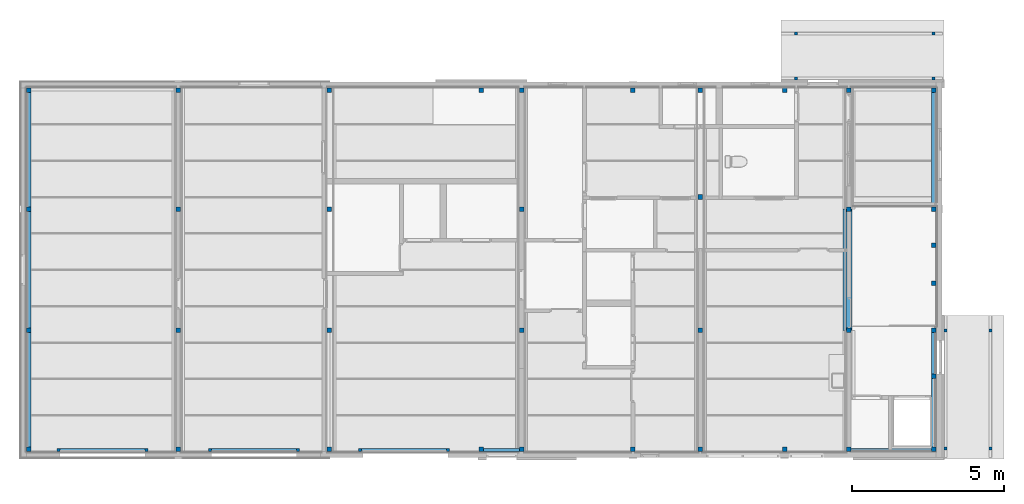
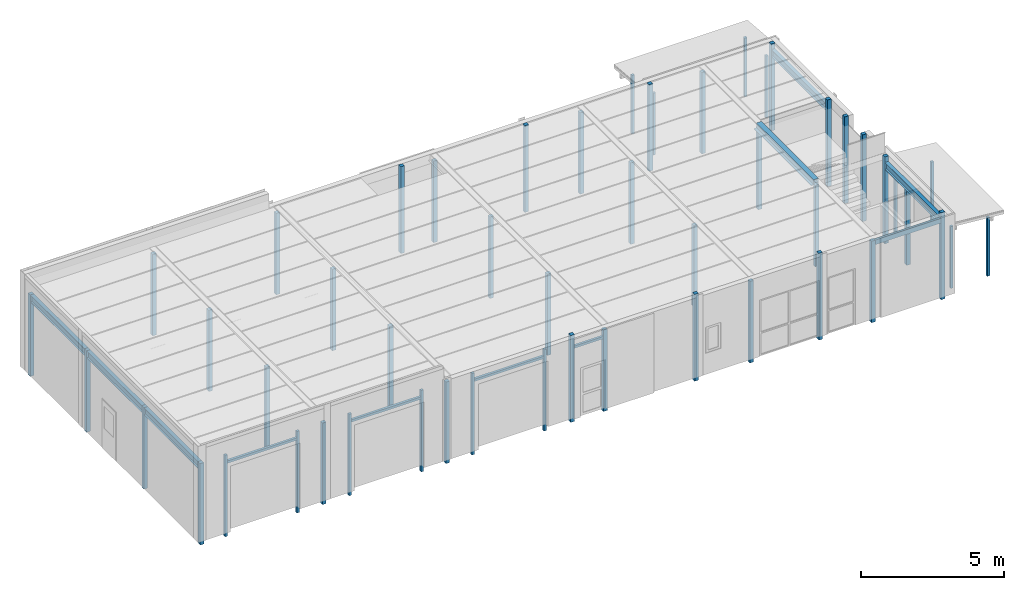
# One storey, part 1 of 45: 51 columns, 11 beams.
"""IFC2X3 building model written with IfcOpenShell, lengths in millimetres."""

import ifcopenshell
import ifcopenshell.guid

model = None  # the IFC model being written
_history = None  # IfcOwnerHistory: only IFC2X3 demands one
_inside = {}  # id of a spatial element -> (the spatial element, [elements in it])
_under = {}  # id of a project, library or spatial element -> (it, [spatial elements below it])
_declared = {}  # id of a project -> (the project, [libraries it declares])
_typed = {}  # id of a type object -> (the type object, [elements of that type])
_made_of = {}  # id of a material, layer set ... -> (it, [elements and type objects made of it])


def new_model(schema):
    """Start an empty IFC model of exactly this schema.

    Asked for "IFC4X3", IfcOpenShell would pick the latest addendum, in which some entities
    have other attributes; the version numbers below select the first issue.
    IFC2X3 requires an IfcOwnerHistory on every rooted entity: one is made here for all.
    """
    global model, _history
    if schema == "IFC4X3":
        model = ifcopenshell.file(schema_version=(4, 3, 0, 0))
    else:
        model = ifcopenshell.file(schema=schema)
    _inside.clear()
    _under.clear()
    _declared.clear()
    _typed.clear()
    _made_of.clear()
    _history = None
    if model.schema == "IFC2X3":
        org = make("IfcOrganization", Name="unknown")
        user = make(
            "IfcPersonAndOrganization",
            ThePerson=make("IfcPerson", FamilyName="unknown"),
            TheOrganization=org,
        )
        app = make(
            "IfcApplication",
            ApplicationDeveloper=org,
            Version="unknown",
            ApplicationFullName="unknown",
            ApplicationIdentifier="unknown",
        )
        _history = make(
            "IfcOwnerHistory",
            OwningUser=user,
            OwningApplication=app,
            ChangeAction="ADDED",
            CreationDate=0,
        )
    return model


def make(cls, **values):
    """One entity of the class cls with the attributes given. An attribute that is None is left unset."""
    return model.create_entity(
        cls, **{name: value for name, value in values.items() if value is not None}
    )


def entity(cls, *values):
    """Any entity or typed value of the class cls, its attributes in the order of the schema. None: left unset."""
    e = model.create_entity(cls)
    for i, value in enumerate(values):
        if value is not None:
            e[i] = value
    return e


def rooted(cls, **values):
    """An entity with a GlobalId (a new one), such as an element, a storey or a relation."""
    return make(cls, GlobalId=ifcopenshell.guid.new(), OwnerHistory=_history, **values)


def si_unit(unit_type, name, prefix=None):
    """IfcSIUnit, for example si_unit("LENGTHUNIT", "METRE", prefix="MILLI")."""
    return make("IfcSIUnit", UnitType=unit_type, Prefix=prefix, Name=name)


def converted_unit(unit_type, name, factor, base, dimensions=None, offset=None):
    """IfcConversionBasedUnit, such as the inch: factor (a typed value) times the base unit."""
    return make(
        "IfcConversionBasedUnit"
        if offset is None
        else "IfcConversionBasedUnitWithOffset",
        ConversionOffset=offset,
        Dimensions=None
        if dimensions is None
        else entity("IfcDimensionalExponents", *dimensions),
        UnitType=unit_type,
        Name=name,
        ConversionFactor=make(
            "IfcMeasureWithUnit", ValueComponent=factor, UnitComponent=base
        ),
    )


def assignment(units):
    """IfcUnitAssignment: the units of a project."""
    return None if units is None else make("IfcUnitAssignment", Units=units)


def point(xyz):
    """IfcCartesianPoint."""
    return None if xyz is None else make("IfcCartesianPoint", Coordinates=xyz)


def direction(xyz):
    """IfcDirection."""
    return None if xyz is None else make("IfcDirection", DirectionRatios=xyz)


def frame(location, z_axis=None, x_axis=None):
    """IfcAxis2Placement3D, a coordinate frame: its origin and axes. An axis left out is left unset."""
    return make(
        "IfcAxis2Placement3D",
        Location=point(location),
        Axis=direction(z_axis),
        RefDirection=direction(x_axis),
    )


def frame_2d(location, x_axis=None):
    """IfcAxis2Placement2D, a coordinate frame in the plane: its origin and x axis."""
    return make(
        "IfcAxis2Placement2D", Location=point(location), RefDirection=direction(x_axis)
    )


def origin():
    """The frame at (0, 0, 0) with its axes left unset."""
    return frame((0.0, 0.0, 0.0))


def origin_with_axes():
    """The frame at (0, 0, 0) with the z axis (0, 0, 1) and the x axis (1, 0, 0) written out."""
    return frame((0.0, 0.0, 0.0), z_axis=(0.0, 0.0, 1.0), x_axis=(1.0, 0.0, 0.0))


def place(relative_to, where):
    """IfcLocalPlacement: puts the frame where relative to a parent placement (None: the world)."""
    return make(
        "IfcLocalPlacement", PlacementRelTo=relative_to, RelativePlacement=where
    )


def context(
    kind, dimensions, precision=None, world=None, true_north=None, identifier=None
):
    """IfcGeometricRepresentationContext, for example the 3D "Model" context."""
    return make(
        "IfcGeometricRepresentationContext",
        ContextIdentifier=identifier,
        ContextType=kind,
        CoordinateSpaceDimension=dimensions,
        Precision=precision,
        WorldCoordinateSystem=world,
        TrueNorth=true_north,
    )


def subcontext(parent, identifier, kind, view, scale=None):
    """IfcGeometricRepresentationSubContext, for example "Body" below "Model"."""
    return make(
        "IfcGeometricRepresentationSubContext",
        ContextIdentifier=identifier,
        ContextType=kind,
        ParentContext=parent,
        TargetScale=scale,
        TargetView=view,
    )


def project(units=None, contexts=None):
    """IfcProject with its units and contexts."""
    return rooted(
        "IfcProject",
        Name="project",
        RepresentationContexts=contexts,
        UnitsInContext=assignment(units),
    )


def spatial(cls, under=None, at=None, **own):
    """A site, building, storey or space (cls), placed at a placement, below another one or the project."""
    s = rooted(cls, ObjectPlacement=at, **own)
    if under is not None:
        _under.setdefault(under.id(), (under, []))[1].append(s)
    return s


def polyline(points):
    """IfcPolyline through the points."""
    return make("IfcPolyline", Points=[point(p) for p in points])


def profile(cls, at=None, kind="AREA", **sizes):
    """A parametric profile (cls). Its sizes go by their IFC names, for example OverallWidth=200.0."""
    return make(cls, ProfileType=kind, Position=at, **sizes)


def rectangle(**sizes):
    """IfcRectangleProfileDef."""
    return profile("IfcRectangleProfileDef", **sizes)


def outline(outer, holes=None, kind="AREA"):
    """IfcArbitraryClosedProfileDef: a profile drawn as a closed curve; with holes, ...WithVoids."""
    if holes is None:
        return make("IfcArbitraryClosedProfileDef", ProfileType=kind, OuterCurve=outer)
    return make(
        "IfcArbitraryProfileDefWithVoids",
        ProfileType=kind,
        OuterCurve=outer,
        InnerCurves=holes,
    )


def extrude(swept, where, along, depth):
    """IfcExtrudedAreaSolid: the profile swept, set in the frame where, extruded along a direction by depth."""
    return make(
        "IfcExtrudedAreaSolid",
        SweptArea=swept,
        Position=where,
        ExtrudedDirection=direction(along),
        Depth=depth,
    )


def faces_of(points, faces, orient=None, outer=None):
    """IfcFace entities. A face is a list of loops; a loop is a list of indices into points, from 0.

    orient and outer hold one flag for each loop. By default every Orientation is true, the
    first loop of a face is its IfcFaceOuterBound and the others are IfcFaceBound.
    """
    made = []
    for i, loops in enumerate(faces):
        bounds = []
        for j, loop in enumerate(loops):
            is_outer = j == 0 if outer is None else outer[i][j]
            bounds.append(
                make(
                    "IfcFaceOuterBound" if is_outer else "IfcFaceBound",
                    Bound=make("IfcPolyLoop", Polygon=[points[k] for k in loop]),
                    Orientation=True if orient is None else orient[i][j],
                )
            )
        made.append(make("IfcFace", Bounds=bounds))
    return made


def faceted_brep(points, faces, orient=None, outer=None, voids=None):
    """IfcFacetedBrep: a solid bounded by flat faces; with voids (closed shells), ...WithVoids."""
    shared = [point(p) for p in points]
    hull = make("IfcClosedShell", CfsFaces=faces_of(shared, faces, orient, outer))
    if voids is None:
        return make("IfcFacetedBrep", Outer=hull)
    return make(
        "IfcFacetedBrepWithVoids",
        Outer=hull,
        Voids=[
            make(cls, CfsFaces=faces_of(shared, fs, o, b)) for cls, fs, o, b in voids
        ],
    )


def shape(context_of_items, identifier, shape_type, items):
    """IfcShapeRepresentation: the items that make up one representation, for example the "Body"."""
    return make(
        "IfcShapeRepresentation",
        ContextOfItems=context_of_items,
        RepresentationIdentifier=identifier,
        RepresentationType=shape_type,
        Items=items,
    )


def material(Name=None, Category=None):
    """IfcMaterial."""
    return make("IfcMaterial", Name=Name, Category=Category)


def made_of(thing, what):
    """Note that an element or type object is made of a material, layer set ...; save() writes the relation."""
    if what is not None:
        _made_of.setdefault(what.id(), (what, []))[1].append(thing)
    return thing


def element(
    cls,
    number,
    at=None,
    inside=None,
    cuts=None,
    type_object=None,
    material=None,
    context=None,
    identifier="Body",
    shape_type=None,
    held_by="IfcProductDefinitionShape",
    body=None,
    shapes=None,
    **own,
):
    """One element of the class cls, such as IfcWall. Its Tag is "e" and its number.

    at: its placement. inside: the storey or other place that contains it. cuts: it is an
    opening in that element (IfcRelVoidsElement). A single representation is given by context,
    identifier, shape_type and body (its items); several are given by shapes. held_by: the class
    of the entity that holds the representations. save() writes the other relations.
    """
    e = rooted(cls, Tag="e%d" % number, ObjectPlacement=at, **own)
    if body is not None:
        shapes = [shape(context, identifier, shape_type, body)]
    if shapes is not None:
        e.Representation = make(held_by, Representations=shapes)
    if inside is not None:
        _inside.setdefault(inside.id(), (inside, []))[1].append(e)
    if cuts is not None:
        rooted(
            "IfcRelVoidsElement", RelatingBuildingElement=cuts, RelatedOpeningElement=e
        )
    if type_object is not None:
        _typed.setdefault(type_object.id(), (type_object, []))[1].append(e)
    return made_of(e, material)


def aggregate(whole, parts):
    """IfcRelAggregates: a whole, such as a stair, and the parts it consists of."""
    return rooted("IfcRelAggregates", RelatingObject=whole, RelatedObjects=parts)


def save(model, path):
    """Write the relations noted so far, then the file.

    IfcRelAggregates (storeys below a building ...), IfcRelContainedInSpatialStructure (elements
    in a storey), IfcRelDefinesByType, IfcRelAssociatesMaterial and IfcRelDeclares: one each for
    every whole, place, type object, material and project.
    """
    for whole, parts in _under.values():
        aggregate(whole, parts)
    for where, things in _inside.values():
        rooted(
            "IfcRelContainedInSpatialStructure",
            RelatedElements=things,
            RelatingStructure=where,
        )
    for kind, things in _typed.values():
        rooted("IfcRelDefinesByType", RelatedObjects=things, RelatingType=kind)
    for what, things in _made_of.values():
        rooted("IfcRelAssociatesMaterial", RelatedObjects=things, RelatingMaterial=what)
    for by, libraries in _declared.values():
        rooted("IfcRelDeclares", RelatingContext=by, RelatedDefinitions=libraries)
    model.write(path)


model = new_model("IFC2X3")

# Units and contexts
model_context = context("Model", 3, precision=1e-05, world=origin())
plan_context = context("Plan", 3, precision=1e-05, world=origin())
body_context = subcontext(model_context, "Body", "Model", "MODEL_VIEW")
ifc_project = project(units=[si_unit("LENGTHUNIT", "METRE", prefix="MILLI"), converted_unit("PLANEANGLEUNIT", "DEGREE", entity("IfcPlaneAngleMeasure", 0.0174532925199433), si_unit("PLANEANGLEUNIT", "RADIAN"), dimensions=[0, 0, 0, 0, 0, 0, 0]), si_unit("AREAUNIT", "SQUARE_METRE"), si_unit("VOLUMEUNIT", "CUBIC_METRE")], contexts=[model_context, plan_context])

# Building, storey
building_placement = place(None, origin())
building = spatial("IfcBuilding", under=ifc_project, at=building_placement, Name="HEKF Administrasjonbygg", CompositionType="ELEMENT")
storey_placement = place(building_placement, frame((0.0, 0.0, 6500.0), z_axis=(0.0, 0.0, 1.0), x_axis=(1.0, 0.0, 0.0)))
storey = spatial("IfcBuildingStorey", under=building, at=storey_placement, Name="Plan 1", CompositionType="ELEMENT", Elevation=6500.0)

# Columns
ifc_material_1 = material(Name="Stål")
column_1_placement = place(storey_placement, frame((27048.77862262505, -150.0, -300.0), z_axis=(0.0, 0.0, 1.0), x_axis=(1.0, 0.0, 0.0)))
element("IfcColumn", 1, at=column_1_placement, inside=storey, material=ifc_material_1, context=body_context, shape_type="SweptSolid", body=[
    extrude(rectangle(XDim=150.0, YDim=150.0, at=frame_2d((75.0, 75.0), x_axis=(1.0, 0.0))), origin_with_axes(), (0.0, 0.0, 1.0), 3470.0),
])
ifc_material_2 = material(Name="Stål")
column_2_placement = place(storey_placement, frame((27048.77862262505, -4075.0, -300.0), z_axis=(0.0, 0.0, 1.0), x_axis=(1.0, 0.0, 0.0)))
element("IfcColumn", 2, at=column_2_placement, inside=storey, material=ifc_material_2, context=body_context, shape_type="SweptSolid", body=[
    extrude(rectangle(XDim=150.0, YDim=150.0, at=frame_2d((75.0, 75.0), x_axis=(1.0, 0.0))), origin_with_axes(), (0.0, 0.0, 1.0), 3470.0),
])
ifc_material_3 = material(Name="Stål")
column_3_placement = place(storey_placement, frame((27050.53680645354, -8075.0, -300.0), z_axis=(0.0, 0.0, 1.0), x_axis=(1.0, 0.0, 0.0)))
element("IfcColumn", 3, at=column_3_placement, inside=storey, material=ifc_material_3, context=body_context, shape_type="SweptSolid", body=[
    extrude(rectangle(XDim=150.0, YDim=150.0, at=frame_2d((75.0, 75.0), x_axis=(1.0, 0.0))), origin_with_axes(), (0.0, 0.0, 1.0), 3470.0),
])
ifc_material_4 = material(Name="Stål")
column_4_placement = place(storey_placement, frame((27050.53680645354, -11999.99999999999, -300.0), z_axis=(0.0, 0.0, 1.0), x_axis=(1.0, 0.0, 0.0)))
element("IfcColumn", 4, at=column_4_placement, inside=storey, material=ifc_material_4, context=body_context, shape_type="SweptSolid", body=[
    extrude(rectangle(XDim=150.0, YDim=150.0, at=frame_2d((75.0, 75.0), x_axis=(1.0, 0.0))), origin_with_axes(), (0.0, 0.0, 1.0), 3470.0),
])
ifc_material_5 = material(Name="Stål")
column_5_placement = place(storey_placement, frame((22148.51021939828, -149.9999999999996, -300.0), z_axis=(0.0, 0.0, 1.0), x_axis=(1.0, 0.0, 0.0)))
element("IfcColumn", 5, at=column_5_placement, inside=storey, material=ifc_material_5, context=body_context, shape_type="SweptSolid", body=[
    extrude(rectangle(XDim=150.0, YDim=150.0, at=frame_2d((75.0, 75.0), x_axis=(1.0, 0.0))), origin_with_axes(), (0.0, 0.0, 1.0), 3470.0),
])
ifc_material_6 = material(Name="Stål")
column_6_placement = place(storey_placement, frame((22148.51021939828, -3674.0, -300.0), z_axis=(0.0, 0.0, 1.0), x_axis=(1.0, 0.0, 0.0)))
element("IfcColumn", 6, at=column_6_placement, inside=storey, material=ifc_material_6, context=body_context, shape_type="SweptSolid", body=[
    extrude(rectangle(XDim=150.0, YDim=150.0, at=frame_2d((75.0, 75.0), x_axis=(1.0, 0.0))), origin_with_axes(), (0.0, 0.0, 1.0), 3470.0),
])
ifc_material_7 = material(Name="Stål")
column_7_placement = place(storey_placement, frame((22150.26840322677, -8075.0, -300.0), z_axis=(0.0, 0.0, 1.0), x_axis=(1.0, 0.0, 0.0)))
element("IfcColumn", 7, at=column_7_placement, inside=storey, material=ifc_material_7, context=body_context, shape_type="SweptSolid", body=[
    extrude(rectangle(XDim=150.0, YDim=150.0, at=frame_2d((75.0, 75.0), x_axis=(1.0, 0.0))), origin_with_axes(), (0.0, 0.0, 1.0), 3470.0),
])
ifc_material_8 = material(Name="Stål")
column_8_placement = place(storey_placement, frame((22150.26840322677, -11999.99999999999, -300.0), z_axis=(0.0, 0.0, 1.0), x_axis=(1.0, 0.0, 0.0)))
element("IfcColumn", 8, at=column_8_placement, inside=storey, material=ifc_material_8, context=body_context, shape_type="SweptSolid", body=[
    extrude(rectangle(XDim=150.0, YDim=150.0, at=frame_2d((75.0, 75.0), x_axis=(1.0, 0.0))), origin_with_axes(), (0.0, 0.0, 1.0), 3470.0),
])
ifc_material_9 = material(Name="Stål")
column_9_placement = place(storey_placement, frame((16250.0, -150.0000000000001, -300.0), z_axis=(0.0, 0.0, 1.0), x_axis=(1.0, 0.0, 0.0)))
element("IfcColumn", 9, at=column_9_placement, inside=storey, material=ifc_material_9, context=body_context, shape_type="SweptSolid", body=[
    extrude(rectangle(XDim=150.0, YDim=150.0, at=frame_2d((75.0, 75.0), x_axis=(1.0, 0.0))), origin_with_axes(), (0.0, 0.0, 1.0), 3470.0),
])
ifc_material_10 = material(Name="Stål")
column_10_placement = place(storey_placement, frame((16250.0, -4074.999999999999, -300.0), z_axis=(0.0, 0.0, 1.0), x_axis=(1.0, 0.0, 0.0)))
element("IfcColumn", 10, at=column_10_placement, inside=storey, material=ifc_material_10, context=body_context, shape_type="SweptSolid", body=[
    extrude(rectangle(XDim=150.0, YDim=150.0, at=frame_2d((75.0, 75.0), x_axis=(1.0, 0.0))), origin_with_axes(), (0.0, 0.0, 1.0), 3470.0),
])
ifc_material_11 = material(Name="Stål")
column_11_placement = place(storey_placement, frame((16250.0, -8075.0, -300.0), z_axis=(0.0, 0.0, 1.0), x_axis=(1.0, 0.0, 0.0)))
element("IfcColumn", 11, at=column_11_placement, inside=storey, material=ifc_material_11, context=body_context, shape_type="SweptSolid", body=[
    extrude(rectangle(XDim=150.0, YDim=150.0, at=frame_2d((75.0, 75.0), x_axis=(1.0, 0.0))), origin_with_axes(), (0.0, 0.0, 1.0), 3470.0),
])
ifc_material_12 = material(Name="Stål")
column_12_placement = place(storey_placement, frame((0.0, -11999.99999999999, -300.0), z_axis=(0.0, 0.0, 1.0), x_axis=(1.0, 0.0, 0.0)))
element("IfcColumn", 12, at=column_12_placement, inside=storey, material=ifc_material_12, context=body_context, shape_type="SweptSolid", body=[
    extrude(rectangle(XDim=150.0, YDim=150.0, at=frame_2d((75.0, 75.0), x_axis=(1.0, 0.0))), origin_with_axes(), (0.0, 0.0, 1.0), 3470.0),
])
ifc_material_13 = material(Name="Stål")
column_13_placement = place(storey_placement, frame((4925.0, -12000.0, -300.0), z_axis=(0.0, 0.0, 1.0), x_axis=(1.0, 0.0, 0.0)))
element("IfcColumn", 13, at=column_13_placement, inside=storey, material=ifc_material_13, context=body_context, shape_type="SweptSolid", body=[
    extrude(rectangle(XDim=150.0, YDim=150.0, at=frame_2d((75.0, 75.0), x_axis=(1.0, 0.0))), origin_with_axes(), (0.0, 0.0, 1.0), 3470.0),
])
ifc_material_14 = material(Name="Stål")
column_14_placement = place(storey_placement, frame((7.275957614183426e-12, -150.0, -300.0), z_axis=(0.0, 0.0, 1.0), x_axis=(1.0, 0.0, 0.0)))
element("IfcColumn", 14, at=column_14_placement, inside=storey, material=ifc_material_14, context=body_context, shape_type="SweptSolid", body=[
    extrude(rectangle(XDim=150.0, YDim=150.0, at=frame_2d((75.0, 75.0), x_axis=(1.0, 0.0))), origin_with_axes(), (0.0, 0.0, 1.0), 3470.0),
])
ifc_material_15 = material(Name="Stål")
column_15_placement = place(storey_placement, frame((5.456968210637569e-12, -4075.000000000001, -300.0), z_axis=(0.0, 0.0, 1.0), x_axis=(1.0, 0.0, 0.0)))
element("IfcColumn", 15, at=column_15_placement, inside=storey, material=ifc_material_15, context=body_context, shape_type="SweptSolid", body=[
    extrude(rectangle(XDim=150.0, YDim=150.0, at=frame_2d((75.0, 75.0), x_axis=(1.0, 0.0))), origin_with_axes(), (0.0, 0.0, 1.0), 3470.0),
])
ifc_material_16 = material(Name="Stål")
column_16_placement = place(storey_placement, frame((5.456968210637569e-12, -8075.000000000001, -300.0), z_axis=(0.0, 0.0, 1.0), x_axis=(1.0, 0.0, 0.0)))
element("IfcColumn", 16, at=column_16_placement, inside=storey, material=ifc_material_16, context=body_context, shape_type="SweptSolid", body=[
    extrude(rectangle(XDim=150.0, YDim=150.0, at=frame_2d((75.0, 75.0), x_axis=(1.0, 0.0))), origin_with_axes(), (0.0, 0.0, 1.0), 3470.0),
])
ifc_material_17 = material(Name="Stål")
column_17_placement = place(storey_placement, frame((4925.0, -149.9999999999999, -300.0), z_axis=(0.0, 0.0, 1.0), x_axis=(1.0, 0.0, 0.0)))
element("IfcColumn", 17, at=column_17_placement, inside=storey, material=ifc_material_17, context=body_context, shape_type="SweptSolid", body=[
    extrude(rectangle(XDim=150.0, YDim=150.0, at=frame_2d((75.0, 75.0), x_axis=(1.0, 0.0))), origin_with_axes(), (0.0, 0.0, 1.0), 3470.0),
])
ifc_material_18 = material(Name="Stål")
column_18_placement = place(storey_placement, frame((4924.999999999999, -4075.000000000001, -300.0), z_axis=(0.0, 0.0, 1.0), x_axis=(1.0, 0.0, 0.0)))
element("IfcColumn", 18, at=column_18_placement, inside=storey, material=ifc_material_18, context=body_context, shape_type="SweptSolid", body=[
    extrude(rectangle(XDim=150.0, YDim=150.0, at=frame_2d((75.0, 75.0), x_axis=(1.0, 0.0))), origin_with_axes(), (0.0, 0.0, 1.0), 3470.0),
])
ifc_material_19 = material(Name="Stål")
column_19_placement = place(storey_placement, frame((4924.999999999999, -8075.000000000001, -300.0), z_axis=(0.0, 0.0, 1.0), x_axis=(1.0, 0.0, 0.0)))
element("IfcColumn", 19, at=column_19_placement, inside=storey, material=ifc_material_19, context=body_context, shape_type="SweptSolid", body=[
    extrude(rectangle(XDim=150.0, YDim=150.0, at=frame_2d((75.0, 75.0), x_axis=(1.0, 0.0))), origin_with_axes(), (0.0, 0.0, 1.0), 3470.0),
])
ifc_material_20 = material(Name="Stål")
column_20_placement = place(storey_placement, frame((3900.0, -12000.0, -300.0), z_axis=(0.0, 0.0, 1.0), x_axis=(1.0, 0.0, 0.0)))
element("IfcColumn", 20, at=column_20_placement, inside=storey, material=ifc_material_20, context=body_context, shape_type="SweptSolid", body=[
    extrude(rectangle(XDim=100.0, YDim=100.0, at=frame_2d((50.0, 50.0), x_axis=(1.0, 0.0))), origin_with_axes(), (0.0, 0.0, 1.0), 3470.0),
])
ifc_material_21 = material(Name="Stål")
column_21_placement = place(storey_placement, frame((1000.0, -12000.0, -300.0), z_axis=(0.0, 0.0, 1.0), x_axis=(1.0, 0.0, 0.0)))
element("IfcColumn", 21, at=column_21_placement, inside=storey, material=ifc_material_21, context=body_context, shape_type="SweptSolid", body=[
    extrude(rectangle(XDim=100.0, YDim=100.0, at=frame_2d((50.0, 50.0), x_axis=(1.0, 0.0))), origin_with_axes(), (0.0, 0.0, 1.0), 3470.0),
])
ifc_material_22 = material(Name="Stål")
column_22_placement = place(storey_placement, frame((5999.999999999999, -12000.0, -300.0), z_axis=(0.0, 0.0, 1.0), x_axis=(1.0, 0.0, 0.0)))
element("IfcColumn", 22, at=column_22_placement, inside=storey, material=ifc_material_22, context=body_context, shape_type="SweptSolid", body=[
    extrude(rectangle(XDim=100.0, YDim=100.0, at=frame_2d((50.0, 50.0), x_axis=(1.0, 0.0))), origin_with_axes(), (0.0, 0.0, 1.0), 3470.0),
])
ifc_material_23 = material(Name="Stål")
column_23_placement = place(storey_placement, frame((8900.0, -12000.0, -300.0), z_axis=(0.0, 0.0, 1.0), x_axis=(1.0, 0.0, 0.0)))
element("IfcColumn", 23, at=column_23_placement, inside=storey, material=ifc_material_23, context=body_context, shape_type="SweptSolid", body=[
    extrude(rectangle(XDim=100.0, YDim=100.0, at=frame_2d((50.0, 50.0), x_axis=(1.0, 0.0))), origin_with_axes(), (0.0, 0.0, 1.0), 3470.0),
])
ifc_material_24 = material(Name="Stål")
column_24_placement = place(storey_placement, frame((13850.0, -12000.0, -300.0), z_axis=(0.0, 0.0, 1.0), x_axis=(1.0, 0.0, 0.0)))
element("IfcColumn", 24, at=column_24_placement, inside=storey, material=ifc_material_24, context=body_context, shape_type="SweptSolid", body=[
    extrude(rectangle(XDim=100.0, YDim=100.0, at=frame_2d((50.0, 50.0), x_axis=(1.0, 0.0))), origin_with_axes(), (0.0, 0.0, 1.0), 3470.0),
])
ifc_material_25 = material(Name="Stål")
column_25_placement = place(storey_placement, frame((10950.0, -12000.0, -300.0), z_axis=(0.0, 0.0, 1.0), x_axis=(1.0, 0.0, 0.0)))
element("IfcColumn", 25, at=column_25_placement, inside=storey, material=ifc_material_25, context=body_context, shape_type="SweptSolid", body=[
    extrude(rectangle(XDim=100.0, YDim=100.0, at=frame_2d((50.0, 50.0), x_axis=(1.0, 0.0))), origin_with_axes(), (0.0, 0.0, 1.0), 3470.0),
])
ifc_material_26 = material(Name="Stål")
column_26_placement = place(storey_placement, frame((16250.0, -11999.99999999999, -300.0), z_axis=(0.0, 0.0, 1.0), x_axis=(1.0, 0.0, 0.0)))
element("IfcColumn", 26, at=column_26_placement, inside=storey, material=ifc_material_26, context=body_context, shape_type="SweptSolid", body=[
    extrude(rectangle(XDim=150.0, YDim=150.0, at=frame_2d((75.0, 75.0), x_axis=(1.0, 0.0))), origin_with_axes(), (0.0, 0.0, 1.0), 3470.0),
])
ifc_material_27 = material(Name="Stål")
column_27_placement = place(storey_placement, frame((9899.999999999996, -8075.000000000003, -300.0), z_axis=(0.0, 0.0, 1.0), x_axis=(1.0, 0.0, 0.0)))
element("IfcColumn", 27, at=column_27_placement, inside=storey, material=ifc_material_27, context=body_context, shape_type="SweptSolid", body=[
    extrude(rectangle(XDim=150.0, YDim=150.0, at=frame_2d((75.0, 75.0), x_axis=(1.0, 0.0))), origin_with_axes(), (0.0, 0.0, 1.0), 3470.0),
])
ifc_material_28 = material(Name="Stål")
column_28_placement = place(storey_placement, frame((9899.999999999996, -4075.000000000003, -300.0), z_axis=(0.0, 0.0, 1.0), x_axis=(1.0, 0.0, 0.0)))
element("IfcColumn", 28, at=column_28_placement, inside=storey, material=ifc_material_28, context=body_context, shape_type="SweptSolid", body=[
    extrude(rectangle(XDim=150.0, YDim=150.0, at=frame_2d((75.0, 75.0), x_axis=(1.0, 0.0))), origin_with_axes(), (0.0, 0.0, 1.0), 3470.0),
])
ifc_material_29 = material(Name="Stål")
column_29_placement = place(storey_placement, frame((9899.999999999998, -150.0, -300.0), z_axis=(0.0, 0.0, 1.0), x_axis=(1.0, 0.0, 0.0)))
element("IfcColumn", 29, at=column_29_placement, inside=storey, material=ifc_material_29, context=body_context, shape_type="SweptSolid", body=[
    extrude(rectangle(XDim=150.0, YDim=150.0, at=frame_2d((75.0, 75.0), x_axis=(1.0, 0.0))), origin_with_axes(), (0.0, 0.0, 1.0), 3470.0),
])
ifc_material_30 = material(Name="Stål")
column_30_placement = place(storey_placement, frame((9899.999999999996, -11999.99999999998, -300.0), z_axis=(0.0, 0.0, 1.0), x_axis=(1.0, 0.0, 0.0)))
element("IfcColumn", 30, at=column_30_placement, inside=storey, material=ifc_material_30, context=body_context, shape_type="SweptSolid", body=[
    extrude(rectangle(XDim=150.0, YDim=150.0, at=frame_2d((75.0, 75.0), x_axis=(1.0, 0.0))), origin_with_axes(), (0.0, 0.0, 1.0), 3470.0),
])
ifc_material_31 = material(Name="Stål")
column_31_placement = place(storey_placement, frame((29850.0, -4075.000000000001, -300.0), z_axis=(0.0, 0.0, 1.0), x_axis=(1.0, 0.0, 0.0)))
element("IfcColumn", 31, at=column_31_placement, inside=storey, material=ifc_material_31, context=body_context, shape_type="SweptSolid", body=[
    extrude(rectangle(XDim=150.0, YDim=150.0, at=frame_2d((75.0, 75.0), x_axis=(1.0, 0.0))), origin_with_axes(), (0.0, 0.0, 1.0), 3700.0),
])
ifc_material_32 = material(Name="Stål")
column_32_placement = place(storey_placement, frame((29850.0, -6526.053432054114, -300.0), z_axis=(0.0, 0.0, 1.0), x_axis=(1.0, 0.0, 0.0)))
element("IfcColumn", 32, at=column_32_placement, inside=storey, material=ifc_material_32, context=body_context, shape_type="SweptSolid", body=[
    extrude(rectangle(XDim=150.0, YDim=150.0, at=frame_2d((75.0, 75.0), x_axis=(1.0, 0.0))), origin_with_axes(), (0.0, 0.0, 1.0), 3700.0),
])
ifc_material_33 = material(Name="Stål")
column_33_placement = place(storey_placement, frame((29850.0, -5266.053432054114, -300.0), z_axis=(0.0, 0.0, 1.0), x_axis=(1.0, 0.0, 0.0)))
element("IfcColumn", 33, at=column_33_placement, inside=storey, material=ifc_material_33, context=body_context, shape_type="SweptSolid", body=[
    extrude(rectangle(XDim=150.0, YDim=150.0, at=frame_2d((75.0, 75.0), x_axis=(1.0, 0.0))), origin_with_axes(), (0.0, 0.0, 1.0), 3700.0),
])
ifc_material_34 = material(Name="Stål")
column_34_placement = place(storey_placement, frame((29850.0, -150.0, -300.0), z_axis=(0.0, 0.0, 1.0), x_axis=(1.0, 0.0, 0.0)))
element("IfcColumn", 34, at=column_34_placement, inside=storey, material=ifc_material_34, context=body_context, shape_type="SweptSolid", body=[
    extrude(rectangle(XDim=150.0, YDim=150.0, at=frame_2d((75.0, 75.0), x_axis=(1.0, 0.0))), origin_with_axes(), (0.0, 0.0, 1.0), 3700.0),
])
ifc_material_35 = material(Name="Stål")
column_35_placement = place(storey_placement, frame((24925.0, -149.9999999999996, -300.0), z_axis=(0.0, 0.0, 1.0), x_axis=(1.0, 0.0, 0.0)))
element("IfcColumn", 35, at=column_35_placement, inside=storey, material=ifc_material_35, context=body_context, shape_type="SweptSolid", body=[
    extrude(rectangle(XDim=150.0, YDim=150.0, at=frame_2d((75.0, 75.0), x_axis=(1.0, 0.0))), origin_with_axes(), (0.0, 0.0, 1.0), 3700.0),
])
ifc_material_36 = material(Name="Stål")
column_36_placement = place(storey_placement, frame((14925.0, -149.9999999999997, -300.0), z_axis=(0.0, 0.0, 1.0), x_axis=(1.0, 0.0, 0.0)))
element("IfcColumn", 36, at=column_36_placement, inside=storey, material=ifc_material_36, context=body_context, shape_type="SweptSolid", body=[
    extrude(rectangle(XDim=150.0, YDim=150.0, at=frame_2d((75.0, 75.0), x_axis=(1.0, 0.0))), origin_with_axes(), (0.0, 0.0, 1.0), 3700.0),
])
ifc_material_37 = material(Name="Stål")
column_37_placement = place(storey_placement, frame((19925.0, -149.9999999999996, -300.0), z_axis=(0.0, 0.0, 1.0), x_axis=(1.0, 0.0, 0.0)))
element("IfcColumn", 37, at=column_37_placement, inside=storey, material=ifc_material_37, context=body_context, shape_type="SweptSolid", body=[
    extrude(rectangle(XDim=150.0, YDim=150.0, at=frame_2d((75.0, 75.0), x_axis=(1.0, 0.0))), origin_with_axes(), (0.0, 0.0, 1.0), 3700.0),
])
ifc_material_38 = material(Name="Stål")
column_38_placement = place(storey_placement, frame((14925.0, -11999.99999999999, -300.0), z_axis=(0.0, 0.0, 1.0), x_axis=(1.0, 0.0, 0.0)))
element("IfcColumn", 38, at=column_38_placement, inside=storey, material=ifc_material_38, context=body_context, shape_type="SweptSolid", body=[
    extrude(rectangle(XDim=150.0, YDim=150.0, at=frame_2d((75.0, 75.0), x_axis=(1.0, 0.0))), origin_with_axes(), (0.0, 0.0, 1.0), 3700.0),
])
ifc_material_39 = material(Name="Stål")
column_39_placement = place(storey_placement, frame((19925.0, -11999.99999999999, -300.0), z_axis=(0.0, 0.0, 1.0), x_axis=(1.0, 0.0, 0.0)))
element("IfcColumn", 39, at=column_39_placement, inside=storey, material=ifc_material_39, context=body_context, shape_type="SweptSolid", body=[
    extrude(rectangle(XDim=150.0, YDim=150.0, at=frame_2d((75.0, 75.0), x_axis=(1.0, 0.0))), origin_with_axes(), (0.0, 0.0, 1.0), 3700.0),
])
ifc_material_40 = material(Name="Stål")
column_40_placement = place(storey_placement, frame((24925.0, -11999.99999999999, -300.0), z_axis=(0.0, 0.0, 1.0), x_axis=(1.0, 0.0, 0.0)))
element("IfcColumn", 40, at=column_40_placement, inside=storey, material=ifc_material_40, context=body_context, shape_type="SweptSolid", body=[
    extrude(rectangle(XDim=150.0, YDim=150.0, at=frame_2d((75.0, 75.0), x_axis=(1.0, 0.0))), origin_with_axes(), (0.0, 0.0, 1.0), 3700.0),
])
ifc_material_41 = material(Name="Stål")
column_41_placement = place(storey_placement, frame((29850.0, -11999.99999999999, -300.0), z_axis=(0.0, 0.0, 1.0), x_axis=(1.0, 0.0, 0.0)))
element("IfcColumn", 41, at=column_41_placement, inside=storey, material=ifc_material_41, context=body_context, shape_type="SweptSolid", body=[
    extrude(rectangle(XDim=150.0, YDim=150.0, at=frame_2d((75.0, 75.0), x_axis=(1.0, 0.0))), origin_with_axes(), (0.0, 0.0, 1.0), 3700.0),
])
ifc_material_42 = material(Name="Stål")
column_42_placement = place(storey_placement, frame((29850.0, -9591.624074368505, -300.0), z_axis=(0.0, 0.0, 1.0), x_axis=(1.0, 0.0, 0.0)))
element("IfcColumn", 42, at=column_42_placement, inside=storey, material=ifc_material_42, context=body_context, shape_type="SweptSolid", body=[
    extrude(rectangle(XDim=150.0, YDim=150.0, at=frame_2d((75.0, 75.0), x_axis=(1.0, 0.0))), origin_with_axes(), (0.0, 0.0, 1.0), 3170.0),
])
ifc_material_43 = material(Name="Stål")
column_43_placement = place(storey_placement, frame((29850.0, -8075.000000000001, -300.0), z_axis=(0.0, 0.0, 1.0), x_axis=(1.0, 0.0, 0.0)))
element("IfcColumn", 43, at=column_43_placement, inside=storey, material=ifc_material_43, context=body_context, shape_type="SweptSolid", body=[
    extrude(rectangle(XDim=150.0, YDim=150.0, at=frame_2d((75.0, 75.0), x_axis=(1.0, 0.0))), origin_with_axes(), (0.0, 0.0, 1.0), 3700.0),
])
ifc_material_44 = material(Name="Stål")
column_44_placement = place(storey_placement, frame((30365.0, -11950.0, 0.0), z_axis=(0.0, 0.0, 1.0), x_axis=(1.0, 0.0, 0.0)))
element("IfcColumn", 44, at=column_44_placement, inside=storey, material=ifc_material_44, context=body_context, shape_type="SweptSolid", body=[
    extrude(rectangle(XDim=100.0, YDim=100.0, at=frame_2d((-50.0, 50.0), x_axis=(0.0, 1.0))), origin_with_axes(), (0.0, 0.0, 1.0), 2629.049999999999),
])
ifc_material_45 = material(Name="Stål")
column_45_placement = place(storey_placement, frame((31840.0, -11950.0, 0.0), z_axis=(0.0, 0.0, 1.0), x_axis=(1.0, 0.0, 0.0)))
element("IfcColumn", 45, at=column_45_placement, inside=storey, material=ifc_material_45, context=body_context, shape_type="SweptSolid", body=[
    extrude(rectangle(XDim=100.0, YDim=100.0, at=frame_2d((-50.0, 50.0), x_axis=(0.0, 1.0))), origin_with_axes(), (0.0, 0.0, 1.0), 2500.0),
])
ifc_material_46 = material(Name="Stål")
column_46_placement = place(storey_placement, frame((30365.0, -8050.000000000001, 0.0), z_axis=(0.0, 0.0, 1.0), x_axis=(1.0, 0.0, 0.0)))
element("IfcColumn", 46, at=column_46_placement, inside=storey, material=ifc_material_46, context=body_context, shape_type="SweptSolid", body=[
    extrude(rectangle(XDim=100.0, YDim=100.0, at=frame_2d((-50.0, 50.0), x_axis=(0.0, 1.0))), origin_with_axes(), (0.0, 0.0, 1.0), 2629.049999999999),
])
ifc_material_47 = material(Name="Stål")
column_47_placement = place(storey_placement, frame((31840.0, -8050.000000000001, 0.0), z_axis=(0.0, 0.0, 1.0), x_axis=(1.0, 0.0, 0.0)))
element("IfcColumn", 47, at=column_47_placement, inside=storey, material=ifc_material_47, context=body_context, shape_type="SweptSolid", body=[
    extrude(rectangle(XDim=100.0, YDim=100.0, at=frame_2d((-50.0, 50.0), x_axis=(0.0, 1.0))), origin_with_axes(), (0.0, 0.0, 1.0), 2500.0),
])
ifc_material_48 = material(Name="Stål")
column_48_placement = place(storey_placement, frame((25432.90598115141, 364.9999999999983, 0.0), z_axis=(0.0, 0.0, 1.0), x_axis=(1.0, 0.0, 0.0)))
element("IfcColumn", 48, at=column_48_placement, inside=storey, material=ifc_material_48, context=body_context, shape_type="SweptSolid", body=[
    extrude(rectangle(XDim=100.0, YDim=100.0, at=frame_2d((-50.0, -50.0), x_axis=(-1.0, 0.0))), origin_with_axes(), (0.0, 0.0, 1.0), 2629.049999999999),
])
ifc_material_49 = material(Name="Stål")
column_49_placement = place(storey_placement, frame((25432.90598115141, 1839.999999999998, 0.0), z_axis=(0.0, 0.0, 1.0), x_axis=(1.0, 0.0, 0.0)))
element("IfcColumn", 49, at=column_49_placement, inside=storey, material=ifc_material_49, context=body_context, shape_type="SweptSolid", body=[
    extrude(rectangle(XDim=100.0, YDim=100.0, at=frame_2d((-50.0, -50.0), x_axis=(-1.0, 0.0))), origin_with_axes(), (0.0, 0.0, 1.0), 2500.0),
])
ifc_material_50 = material(Name="Stål")
column_50_placement = place(storey_placement, frame((29968.99999999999, 1839.999999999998, 0.0), z_axis=(0.0, 0.0, 1.0), x_axis=(1.0, 0.0, 0.0)))
element("IfcColumn", 50, at=column_50_placement, inside=storey, material=ifc_material_50, context=body_context, shape_type="SweptSolid", body=[
    extrude(rectangle(XDim=100.0, YDim=100.0, at=frame_2d((-50.0, -50.0), x_axis=(-1.0, 0.0))), origin_with_axes(), (0.0, 0.0, 1.0), 2500.0),
])
ifc_material_51 = material(Name="Stål")
column_51_placement = place(storey_placement, frame((29968.99999999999, 364.9999999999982, 0.0), z_axis=(0.0, 0.0, 1.0), x_axis=(1.0, 0.0, 0.0)))
element("IfcColumn", 51, at=column_51_placement, inside=storey, material=ifc_material_51, context=body_context, shape_type="SweptSolid", body=[
    extrude(rectangle(XDim=100.0, YDim=100.0, at=frame_2d((-50.0, -50.0), x_axis=(-1.0, 0.0))), origin_with_axes(), (0.0, 0.0, 1.0), 2629.049999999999),
])

# Beams
ifc_material_52 = material(Name="Betong i drager")
beam_1_placement = place(storey_placement, frame((1100.0, -12000.0, 2800.0), z_axis=(0.0, 0.0, 1.0), x_axis=(1.0, 0.0, 0.0)))
element("IfcBeam", 52, at=beam_1_placement, inside=storey, material=ifc_material_52, context=body_context, shape_type="SweptSolid", body=[
    extrude(rectangle(XDim=100.0, YDim=100.0, at=frame_2d((50.0, -50.0), x_axis=(1.0, 0.0))), frame((0.0, 0.0, 0.0), z_axis=(1.0, 0.0, 0.0), x_axis=(0.0, 0.0, 1.0)), (0.0, 0.0, 1.0), 2800.0),
])
ifc_material_53 = material(Name="Betong i drager")
beam_2_placement = place(storey_placement, frame((6099.999999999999, -12000.0, 2800.0), z_axis=(0.0, 0.0, 1.0), x_axis=(1.0, 0.0, 0.0)))
element("IfcBeam", 53, at=beam_2_placement, inside=storey, material=ifc_material_53, context=body_context, shape_type="SweptSolid", body=[
    extrude(rectangle(XDim=100.0, YDim=100.0, at=frame_2d((50.0, -50.0), x_axis=(1.0, 0.0))), frame((0.0, 0.0, 0.0), z_axis=(1.0, 0.0, 0.0), x_axis=(0.0, 0.0, 1.0)), (0.0, 0.0, 1.0), 2800.000000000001),
])
ifc_material_54 = material(Name="Betong i drager")
beam_3_placement = place(storey_placement, frame((11050.0, -12000.0, 2800.0), z_axis=(0.0, 0.0, 1.0), x_axis=(1.0, 0.0, 0.0)))
element("IfcBeam", 54, at=beam_3_placement, inside=storey, material=ifc_material_54, context=body_context, shape_type="SweptSolid", body=[
    extrude(rectangle(XDim=100.0, YDim=100.0, at=frame_2d((50.0, -50.0), x_axis=(1.0, 0.0))), frame((0.0, 0.0, 0.0), z_axis=(1.0, 0.0, 0.0), x_axis=(0.0, 0.0, 1.0)), (0.0, 0.0, 1.0), 2800.000000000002),
])
ifc_material_55 = material(Name="Betong i drager")
beam_4_placement = place(storey_placement, frame((15075.0, -11999.99999999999, 2800.0), z_axis=(0.0, 0.0, 1.0), x_axis=(1.0, 0.0, 0.0)))
element("IfcBeam", 55, at=beam_4_placement, inside=storey, material=ifc_material_55, context=body_context, shape_type="SweptSolid", body=[
    extrude(rectangle(XDim=100.0, YDim=100.0, at=frame_2d((50.0, -50.0), x_axis=(1.0, 0.0))), frame((0.0, 0.0, 0.0), z_axis=(1.0, 0.0, 0.0), x_axis=(0.0, 0.0, 1.0)), (0.0, 0.0, 1.0), 1175.0),
])
ifc_material_56 = material(Name="Betong i drager")
beam_5_placement = place(storey_placement, frame((2.273736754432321e-13, -8075.0, 2870.0), z_axis=(0.0, 0.0, 1.0), x_axis=(-6.023143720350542e-17, -1.0, 0.0)))
element("IfcBeam", 56, at=beam_5_placement, inside=storey, material=ifc_material_56, context=body_context, shape_type="SweptSolid", body=[
    extrude(outline(polyline([(10.70000000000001, -150.0000000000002), (10.70000000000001, -78.55000000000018), (289.3, -78.55000000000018), (289.3, -150.0), (300.0, -150.0), (300.0, 0.0), (289.3, 0.0), (289.3, -71.44999999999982), (10.7, -71.44999999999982), (10.7, 0.0), (0.0, 0.0), (0.0, -150.0000000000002), (10.70000000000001, -150.0000000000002)])), frame((0.0, 0.0, 0.0), z_axis=(1.0, 0.0, 0.0), x_axis=(0.0, 0.0, 1.0)), (0.0, 0.0, 1.0), 3774.999999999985),
])
ifc_material_57 = material(Name="Betong i drager")
beam_6_placement = place(storey_placement, frame((5.684341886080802e-12, -4075.000000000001, 2870.0), z_axis=(0.0, 0.0, 1.0), x_axis=(-5.905809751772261e-17, -1.0, 0.0)))
element("IfcBeam", 57, at=beam_6_placement, inside=storey, material=ifc_material_57, context=body_context, shape_type="SweptSolid", body=[
    extrude(outline(polyline([(10.70000000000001, -150.0000000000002), (10.70000000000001, -78.55000000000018), (289.3, -78.55000000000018), (289.3, -150.0), (300.0, -150.0), (300.0, 0.0), (289.3, 0.0), (289.3, -71.44999999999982), (10.7, -71.44999999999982), (10.7, 0.0), (0.0, 0.0), (0.0, -150.0000000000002), (10.70000000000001, -150.0000000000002)])), frame((0.0, 0.0, 0.0), z_axis=(1.0, 0.0, 0.0), x_axis=(0.0, 0.0, 1.0)), (0.0, 0.0, 1.0), 3850.0),
])
ifc_material_58 = material(Name="Betong i drager")
beam_7_placement = place(storey_placement, frame((5.684341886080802e-12, -150.0000000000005, 2870.0), z_axis=(0.0, 0.0, 1.0), x_axis=(-6.023143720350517e-17, -1.0, 0.0)))
element("IfcBeam", 58, at=beam_7_placement, inside=storey, material=ifc_material_58, context=body_context, shape_type="SweptSolid", body=[
    extrude(outline(polyline([(10.70000000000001, -150.0000000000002), (10.70000000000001, -78.55000000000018), (289.3, -78.55000000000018), (289.3, -150.0), (300.0, -150.0), (300.0, 0.0), (289.3, 0.0), (289.3, -71.44999999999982), (10.7, -71.44999999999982), (10.7, 0.0), (0.0, 0.0), (0.0, -150.0000000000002), (10.70000000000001, -150.0000000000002)])), frame((0.0, 0.0, 0.0), z_axis=(1.0, 0.0, 0.0), x_axis=(0.0, 0.0, 1.0)), (0.0, 0.0, 1.0), 3775.000000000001),
])
ifc_material_59 = material(Name="Betong i drager")
beam_8_placement = place(storey_placement, frame((29850.0, -150.0000000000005, 2870.0), z_axis=(0.0, 0.0, 1.0), x_axis=(-9.637029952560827e-16, -1.0, 0.0)))
element("IfcBeam", 59, at=beam_8_placement, inside=storey, material=ifc_material_59, context=body_context, shape_type="SweptSolid", body=[
    extrude(outline(polyline([(10.70000000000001, -150.0000000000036), (10.70000000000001, -78.550000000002), (289.3, -78.550000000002), (289.3, -150.0000000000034), (300.0, -150.0000000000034), (300.0, 0.0), (289.3, 0.0), (289.3, -71.45000000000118), (10.7, -71.45000000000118), (10.7, 0.0), (0.0, 0.0), (0.0, -150.0000000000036), (10.70000000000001, -150.0000000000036)])), frame((0.0, 0.0, 0.0), z_axis=(1.0, 0.0, 0.0), x_axis=(0.0, 0.0, 1.0)), (0.0, 0.0, 1.0), 3775.000000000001),
])
ifc_material_60 = material(Name="Betong i drager")
beam_9_placement = place(storey_placement, frame((29850.0, -8075.0, 2870.0), z_axis=(0.0, 0.0, 1.0), x_axis=(0.0, -1.0, 0.0)))
element("IfcBeam", 60, at=beam_9_placement, inside=storey, material=ifc_material_60, context=body_context, shape_type="SweptSolid", body=[
    extrude(outline(polyline([(10.70000000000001, -150.0), (10.70000000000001, -78.55000000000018), (289.3, -78.55000000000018), (289.3, -149.9999999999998), (300.0, -149.9999999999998), (300.0, 0.0), (289.3, 0.0), (289.3, -71.44999999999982), (10.7, -71.44999999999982), (10.7, 0.0), (0.0, 0.0), (0.0, -150.0), (10.70000000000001, -150.0)])), frame((0.0, 0.0, 0.0), z_axis=(1.0, 0.0, 0.0), x_axis=(0.0, 0.0, 1.0)), (0.0, 0.0, 1.0), 3774.999999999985),
])
ifc_material_61 = material(Name="HSQ")
beam_10_placement = place(storey_placement, frame((0.0, 0.0, -6500.0), z_axis=(0.0, 0.0, 1.0), x_axis=(1.0, 0.0, 0.0)))
element("IfcBeam", 61, at=beam_10_placement, inside=storey, material=ifc_material_61, context=body_context, shape_type="Brep", body=[
    faceted_brep([(26925.53680645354, -8000.0, 9670.0), (26925.53680645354, -8000.0, 9650.0), (26925.53680645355, -4000.0, 9650.0), (26925.53680645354, -4000.0, 9670.0), (27225.53680645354, -8000.0, 9870.0), (27225.53680645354, -8000.0, 9650.0), (26925.53680645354, -8000.0, 9650.0), (26925.53680645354, -8000.0, 9670.0), (27025.53680645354, -8000.0, 9670.0), (27025.53680645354, -8000.0, 9870.0), (27220.53680645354, -8000.0, 9845.0), (27030.53680645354, -8000.0, 9845.0), (27030.53680645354, -8000.0, 9670.0), (27220.53680645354, -8000.0, 9670.0), (27225.53680645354, -4000.0, 9870.0), (27225.53680645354, -4000.0, 9650.0), (27225.53680645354, -8000.0, 9650.0), (27225.53680645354, -8000.0, 9870.0), (26925.53680645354, -4000.0, 9670.0), (26925.53680645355, -4000.0, 9650.0), (27225.53680645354, -4000.0, 9650.0), (27225.53680645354, -4000.0, 9870.0), (27025.53680645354, -4000.0, 9870.0), (27025.53680645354, -4000.0, 9670.0), (27220.53680645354, -4000.0, 9845.0), (27220.53680645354, -4000.0, 9670.0), (27030.53680645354, -4000.0, 9670.0), (27030.53680645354, -4000.0, 9845.0), (26925.53680645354, -8000.0, 9650.0), (27225.53680645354, -8000.0, 9650.0), (27225.53680645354, -4000.0, 9650.0), (26925.53680645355, -4000.0, 9650.0), (27225.53680645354, -8000.0, 9870.0), (27025.53680645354, -8000.0, 9870.0), (27025.53680645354, -4000.0, 9870.0), (27225.53680645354, -4000.0, 9870.0), (27025.53680645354, -8000.0, 9870.0), (27025.53680645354, -8000.0, 9670.0), (27025.53680645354, -4000.0, 9670.0), (27025.53680645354, -4000.0, 9870.0), (27025.53680645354, -8000.0, 9670.0), (26925.53680645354, -8000.0, 9670.0), (26925.53680645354, -4000.0, 9670.0), (27025.53680645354, -4000.0, 9670.0), (27220.53680645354, -8000.0, 9845.0), (27220.53680645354, -8000.0, 9670.0), (27220.53680645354, -4000.0, 9670.0), (27220.53680645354, -4000.0, 9845.0), (27220.53680645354, -8000.0, 9670.0), (27030.53680645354, -8000.0, 9670.0), (27030.53680645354, -4000.0, 9670.0), (27220.53680645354, -4000.0, 9670.0), (27030.53680645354, -8000.0, 9670.0), (27030.53680645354, -8000.0, 9845.0), (27030.53680645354, -4000.0, 9845.0), (27030.53680645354, -4000.0, 9670.0), (27030.53680645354, -8000.0, 9845.0), (27220.53680645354, -8000.0, 9845.0), (27220.53680645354, -4000.0, 9845.0), (27030.53680645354, -4000.0, 9845.0)], [[[0, 1, 2, 3]], [[4, 5, 6, 7, 8, 9], [10, 11, 12, 13]], [[14, 15, 16, 17]], [[18, 19, 20, 21, 22, 23], [24, 25, 26, 27]], [[28, 29, 30, 31]], [[32, 33, 34, 35]], [[36, 37, 38, 39]], [[40, 41, 42, 43]], [[44, 45, 46, 47]], [[48, 49, 50, 51]], [[52, 53, 54, 55]], [[56, 57, 58, 59]]], orient=[[False], [False, False], [False], [False, False], [False], [False], [False], [False], [False], [False], [False], [False]]),
])
ifc_material_62 = material(Name="Betong i drager")
beam_11_placement = place(storey_placement, frame((27200.53680645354, -11999.99999999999, 2970.0), z_axis=(0.0, 0.0, 1.0), x_axis=(1.0, 0.0, 0.0)))
element("IfcBeam", 62, at=beam_11_placement, inside=storey, material=ifc_material_62, context=body_context, shape_type="SweptSolid", body=[
    extrude(rectangle(XDim=200.0, YDim=100.0, at=frame_2d((100.0, -50.0), x_axis=(1.0, 0.0))), frame((0.0, 0.0, 0.0), z_axis=(1.0, 0.0, 0.0), x_axis=(0.0, 0.0, 1.0)), (0.0, 0.0, 1.0), 2649.463193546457),
])

save(model, "model.ifc")
